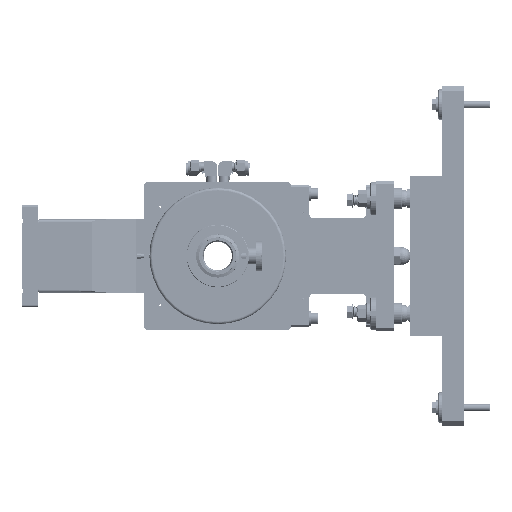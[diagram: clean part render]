
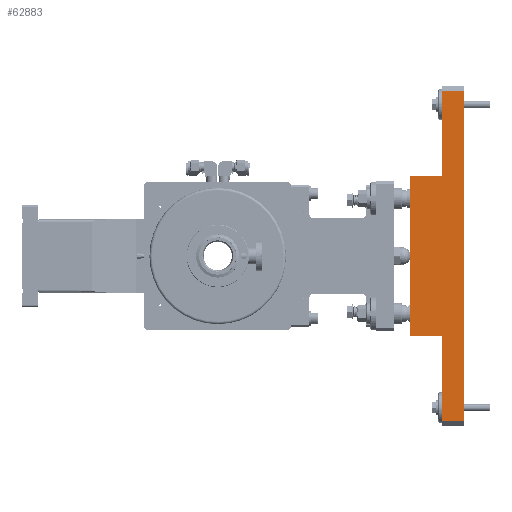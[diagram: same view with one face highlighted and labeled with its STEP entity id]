
A CAD part, front view. The second image highlights one B-rep face of the part: STEP entity #62883.
In plain terms, the highlighted planar face has unit normal (0, -1, 0) as drawn and (-1, 0, 0) by its records, which use the part's own axes.
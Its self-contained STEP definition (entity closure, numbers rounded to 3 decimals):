
#61417=DIRECTION('',(0.,-1.,0.));
#61418=VECTOR('',#61417,370.);
#61419=CARTESIAN_POINT('',(-215.,185.,0.));
#61420=LINE('',#61419,#61418);
#61679=DIRECTION('',(0.,-1.,0.));
#61680=VECTOR('',#61679,180.);
#61681=CARTESIAN_POINT('',(-215.,90.,60.));
#61682=LINE('',#61681,#61680);
#61813=DIRECTION('',(0.,-1.,0.));
#61814=VECTOR('',#61813,95.);
#61815=CARTESIAN_POINT('',(-215.,185.,25.));
#61816=LINE('',#61815,#61814);
#61817=DIRECTION('',(0.,0.,-1.));
#61818=VECTOR('',#61817,35.);
#61819=CARTESIAN_POINT('',(-215.,90.,60.));
#61820=LINE('',#61819,#61818);
#61821=DIRECTION('',(0.,0.,-1.));
#61822=VECTOR('',#61821,35.);
#61823=CARTESIAN_POINT('',(-215.,-90.,60.));
#61824=LINE('',#61823,#61822);
#61825=DIRECTION('',(0.,-1.,0.));
#61826=VECTOR('',#61825,95.);
#61827=CARTESIAN_POINT('',(-215.,-90.,25.));
#61828=LINE('',#61827,#61826);
#61829=DIRECTION('',(0.,0.,-1.));
#61830=VECTOR('',#61829,25.);
#61831=CARTESIAN_POINT('',(-215.,-185.,25.));
#61832=LINE('',#61831,#61830);
#61833=DIRECTION('',(0.,0.,-1.));
#61834=VECTOR('',#61833,25.);
#61835=CARTESIAN_POINT('',(-215.,185.,25.));
#61836=LINE('',#61835,#61834);
#62067=CARTESIAN_POINT('',(-215.,185.,0.));
#62069=VERTEX_POINT('',#62067);
#62080=CARTESIAN_POINT('',(-215.,-185.,0.));
#62082=VERTEX_POINT('',#62080);
#62153=CARTESIAN_POINT('',(-215.,185.,25.));
#62154=CARTESIAN_POINT('',(-215.,90.,25.));
#62155=VERTEX_POINT('',#62153);
#62156=VERTEX_POINT('',#62154);
#62157=CARTESIAN_POINT('',(-215.,-90.,25.));
#62158=CARTESIAN_POINT('',(-215.,-185.,25.));
#62159=VERTEX_POINT('',#62157);
#62160=VERTEX_POINT('',#62158);
#62161=CARTESIAN_POINT('',(-215.,90.,60.));
#62162=VERTEX_POINT('',#62161);
#62163=CARTESIAN_POINT('',(-215.,-90.,60.));
#62164=VERTEX_POINT('',#62163);
#62865=CARTESIAN_POINT('',(-215.,190.,0.));
#62866=DIRECTION('',(-1.,0.,0.));
#62867=DIRECTION('',(0.,-1.,0.));
#62868=AXIS2_PLACEMENT_3D('',#62865,#62866,#62867);
#62869=PLANE('',#62868);
#62870=ORIENTED_EDGE('',*,*,#62341,.T.);
#62872=ORIENTED_EDGE('',*,*,#62871,.F.);
#62873=ORIENTED_EDGE('',*,*,#62650,.T.);
#62874=ORIENTED_EDGE('',*,*,#62859,.T.);
#62875=ORIENTED_EDGE('',*,*,#62369,.T.);
#62877=ORIENTED_EDGE('',*,*,#62876,.T.);
#62878=ORIENTED_EDGE('',*,*,#62256,.F.);
#62880=ORIENTED_EDGE('',*,*,#62879,.F.);
#62881=EDGE_LOOP('',(#62870,#62872,#62873,#62874,#62875,#62877,#62878,#62880));
#62882=FACE_OUTER_BOUND('',#62881,.F.);
#62256=EDGE_CURVE('',#62069,#62082,#61420,.T.);
#62341=EDGE_CURVE('',#62155,#62156,#61816,.T.);
#62369=EDGE_CURVE('',#62159,#62160,#61828,.T.);
#62650=EDGE_CURVE('',#62162,#62164,#61682,.T.);
#62859=EDGE_CURVE('',#62164,#62159,#61824,.T.);
#62871=EDGE_CURVE('',#62162,#62156,#61820,.T.);
#62876=EDGE_CURVE('',#62160,#62082,#61832,.T.);
#62879=EDGE_CURVE('',#62155,#62069,#61836,.T.);
#62883=ADVANCED_FACE('',(#62882),#62869,.T.);
